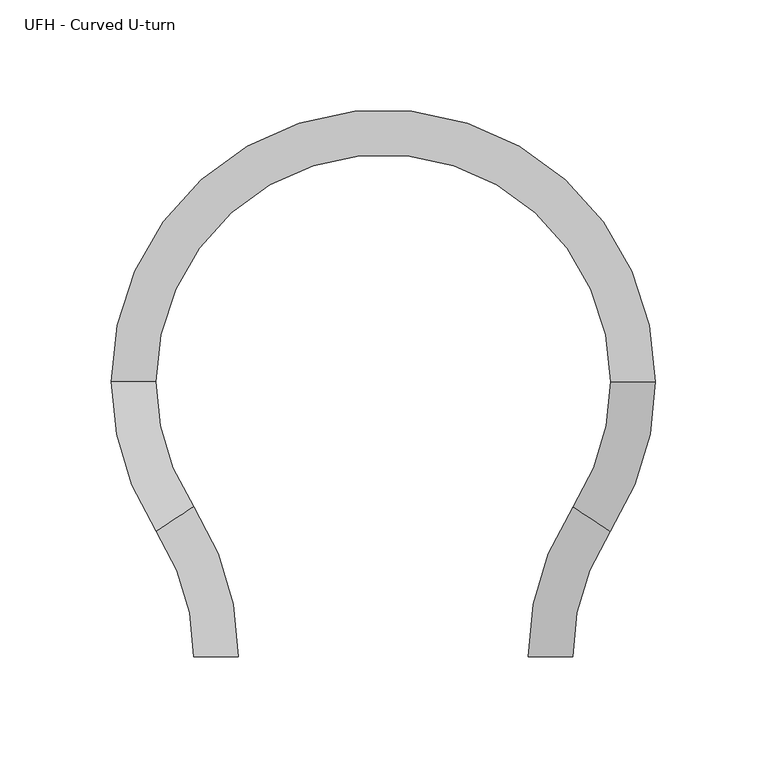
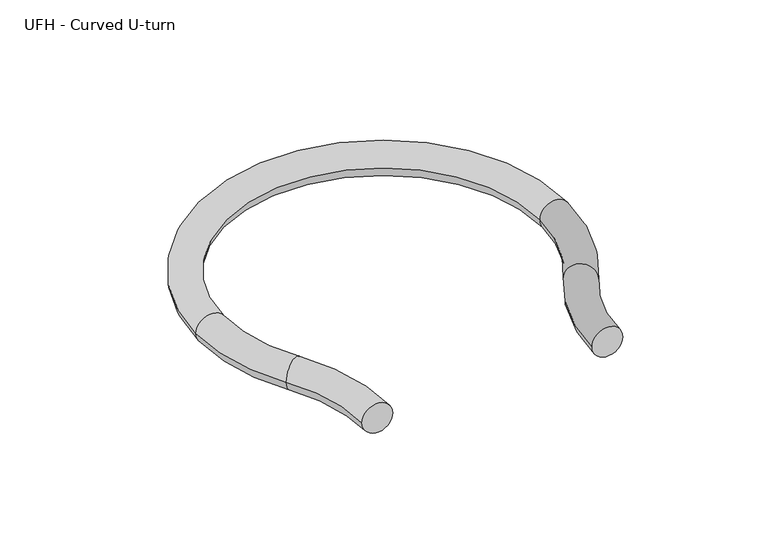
"""IFC4 building model written with IfcOpenShell, lengths in millimetres: pipe fitting geometry, UFH - Curved U-turn : Superpipe 2+ UFH Curved U-turn  - VA150."""

from ifc_helpers import new_model, si_unit, point, frame, origin, place, context, project, spatial, circle_curve, ellipse_curve, trimmed, source, transform, mapped, element, save
from ifc_brep_helpers import plane_surface, revolved_surface, advanced_brep


def ufh_curved_u_turn_2191235d(model_context):
    return source(origin(), model_context, "Body", "AdvancedBrep", [
        advanced_brep(
        [(10.0, 0.0, 0.0), (-10.0, 0.0, 0.0), (-26.8482143, 56.1531245, 0.0), (-10.1517857, 67.1635411, 0.0), (-47.0, 123.3166655, 0.0), (-27.0, 123.3166655, 0.0), (197.0, 123.3166655, 0.0), (177.0, 123.3166655, 0.0), (176.8482143, 56.1531245, 0.0), (160.1517857, 67.1635411, 0.0), (140.0, 0.0, 0.0), (160.0, 0.0, 0.0)],
        [
            (0, 1, circle_curve(frame((0.0, 0.0, 0.0), z_axis=(0.0, -1.0, 0.0), x_axis=(-1.0, 0.0, 0.0)), 10.0)),
            (1, 0, circle_curve(frame((0.0, 0.0, 0.0), z_axis=(0.0, -1.0, 0.0), x_axis=(-1.0, 0.0, 0.0)), 10.0)),
            (2, 1, circle_curve(frame((-112.0, 0.0, 0.0), z_axis=(0.0, 0.0, -1.0), x_axis=(1.0, 0.0, 0.0)), 102.0)),
            (0, 3, circle_curve(frame((-112.0, 0.0, 0.0), z_axis=(0.0, 0.0, 1.0), x_axis=(1.0, 0.0, 0.0)), 122.0)),
            (3, 2, circle_curve(frame((-18.5, 61.6583328, 0.0), z_axis=(0.5505208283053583, -0.8348214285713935, 0.0), x_axis=(-0.8348214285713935, -0.5505208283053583, 0.0)), 10.0)),
            (2, 3, circle_curve(frame((-18.5, 61.6583328, 0.0), z_axis=(0.5505208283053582, -0.8348214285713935, 0.0), x_axis=(-0.8348214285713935, -0.5505208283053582, 0.0)), 10.0)),
            (4, 2, circle_curve(frame((75.0, 123.3166655, 0.0), z_axis=(0.0, 0.0, 1.0), x_axis=(-0.8348214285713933, -0.5505208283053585, 0.0)), 122.0)),
            (3, 5, circle_curve(frame((75.0, 123.3166655, 0.0), z_axis=(0.0, 0.0, -1.0), x_axis=(-0.8348214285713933, -0.5505208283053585, 0.0)), 102.0)),
            (5, 4, circle_curve(frame((-37.0, 123.3166655, 0.0), z_axis=(0.0, -1.0, 0.0), x_axis=(-1.0, 0.0, 0.0)), 10.0)),
            (4, 5, circle_curve(frame((-37.0, 123.3166655, 0.0), z_axis=(0.0, -1.0, 0.0), x_axis=(-1.0, 0.0, 0.0)), 10.0)),
            (6, 4, circle_curve(frame((75.0, 123.3166655, 0.0), z_axis=(0.0, 0.0, 1.0), x_axis=(-1.0, 0.0, 0.0)), 122.0)),
            (5, 7, circle_curve(frame((75.0, 123.3166655, 0.0), z_axis=(0.0, 0.0, -1.0), x_axis=(-1.0, 0.0, 0.0)), 102.0)),
            (7, 6, circle_curve(frame((187.0, 123.3166655, 0.0), z_axis=(0.0, 1.0, 0.0), x_axis=(1.0, 0.0, 0.0)), 10.0)),
            (6, 7, circle_curve(frame((187.0, 123.3166655, 0.0), z_axis=(0.0, 1.0, 0.0), x_axis=(1.0, 0.0, 0.0)), 10.0)),
            (8, 6, circle_curve(frame((75.0, 123.3166655, 0.0), z_axis=(0.0, 0.0, 1.0), x_axis=(1.0, 0.0, 0.0)), 122.0)),
            (7, 9, circle_curve(frame((75.0, 123.3166655, 0.0), z_axis=(0.0, 0.0, -1.0), x_axis=(1.0, 0.0, 0.0)), 102.0)),
            (9, 8, circle_curve(frame((168.5, 61.6583328, 0.0), z_axis=(0.5505208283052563, 0.8348214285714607, 0.0), x_axis=(0.8348214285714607, -0.5505208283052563, 0.0)), 10.0)),
            (8, 9, circle_curve(frame((168.5, 61.6583328, 0.0), z_axis=(0.5505208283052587, 0.8348214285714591, 0.0), x_axis=(0.8348214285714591, -0.5505208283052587, 0.0)), 10.0)),
            (10, 11, circle_curve(frame((150.0, 0.0, 0.0), z_axis=(0.0, -1.0, 0.0), x_axis=(1.0, 0.0, 0.0)), 10.0)),
            (11, 10, circle_curve(frame((150.0, 0.0, 0.0), z_axis=(0.0, -1.0, 0.0), x_axis=(1.0, 0.0, 0.0)), 10.0)),
            (11, 8, circle_curve(frame((262.0, 0.0, 0.0), z_axis=(0.0, 0.0, -1.0), x_axis=(-0.8348214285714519, 0.5505208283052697, 0.0)), 102.0)),
            (9, 10, circle_curve(frame((262.0, 0.0, 0.0), z_axis=(0.0, 0.0, 1.0), x_axis=(-0.8348214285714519, 0.5505208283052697, 0.0)), 122.0)),
        ],
        [
            plane_surface(frame((0.0, 0.0, 0.0), z_axis=(0.0, -1.0, 0.0), x_axis=(0.0, 0.0, 1.0))),
            revolved_surface(trimmed(ellipse_curve(frame((0.0, 0.0, 0.0), z_axis=(0.0, -1.0, 0.0), x_axis=(-1.0, 0.0, 0.0)), 10.0, 10.0), [point((10.0, 0.0, 0.0))], [point((-10.0, 0.0, 0.0))], True, "CARTESIAN"), (-112.0, 0.0, 0.0), (0.0, 0.0, 1.0)),
            revolved_surface(trimmed(ellipse_curve(frame((0.0, 0.0, 0.0), z_axis=(0.0, -1.0, 0.0), x_axis=(-1.0, 0.0, 0.0)), 10.0, 10.0), [point((-10.0, 0.0, 0.0))], [point((10.0, 0.0, 0.0))], True, "CARTESIAN"), (-112.0, 0.0, 0.0), (0.0, 0.0, 1.0)),
            revolved_surface(trimmed(ellipse_curve(frame((-18.5, 61.6583328, 0.0), z_axis=(0.5505208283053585, -0.8348214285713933, 0.0), x_axis=(-0.8348214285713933, -0.5505208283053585, 0.0)), 10.0, 10.0), [point((-10.1517857, 67.1635411, 0.0))], [point((-26.8482143, 56.1531245, 0.0))], True, "CARTESIAN"), (75.0, 123.3166655, 0.0), (0.0, 0.0, -1.0)),
            revolved_surface(trimmed(ellipse_curve(frame((-18.5, 61.6583328, 0.0), z_axis=(0.5505208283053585, -0.8348214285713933, 0.0), x_axis=(-0.8348214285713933, -0.5505208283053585, 0.0)), 10.0, 10.0), [point((-26.8482143, 56.1531245, 0.0))], [point((-10.1517857, 67.1635411, 0.0))], True, "CARTESIAN"), (75.0, 123.3166655, 0.0), (0.0, 0.0, -1.0)),
            revolved_surface(trimmed(ellipse_curve(frame((-37.0, 123.3166655, 0.0), z_axis=(0.0, -1.0, 0.0), x_axis=(-1.0, 0.0, 0.0)), 10.0, 10.0), [point((-27.0, 123.3166655, 0.0))], [point((-47.0, 123.3166655, 0.0))], True, "CARTESIAN"), (75.0, 123.3166655, 0.0), (0.0, 0.0, -1.0)),
            revolved_surface(trimmed(ellipse_curve(frame((-37.0, 123.3166655, 0.0), z_axis=(0.0, -1.0, 0.0), x_axis=(-1.0, 0.0, 0.0)), 10.0, 10.0), [point((-47.0, 123.3166655, 0.0))], [point((-27.0, 123.3166655, 0.0))], True, "CARTESIAN"), (75.0, 123.3166655, 0.0), (0.0, 0.0, -1.0)),
            revolved_surface(trimmed(ellipse_curve(frame((187.0, 123.3166655, 0.0), z_axis=(0.0, 1.0, 0.0), x_axis=(1.0, 0.0, 0.0)), 10.0, 10.0), [point((177.0, 123.3166655, 0.0))], [point((197.0, 123.3166655, 0.0))], True, "CARTESIAN"), (75.0, 123.3166655, 0.0), (0.0, 0.0, -1.0)),
            revolved_surface(trimmed(ellipse_curve(frame((187.0, 123.3166655, 0.0), z_axis=(0.0, 1.0, 0.0), x_axis=(1.0, 0.0, 0.0)), 10.0, 10.0), [point((197.0, 123.3166655, 0.0))], [point((177.0, 123.3166655, 0.0))], True, "CARTESIAN"), (75.0, 123.3166655, 0.0), (0.0, 0.0, -1.0)),
            plane_surface(frame((150.0, 0.0, 0.0), z_axis=(0.0, -1.0, 0.0), x_axis=(0.0, 0.0, 1.0))),
            revolved_surface(trimmed(ellipse_curve(frame((168.5, 61.6583328, 0.0), z_axis=(0.5505208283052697, 0.8348214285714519, 0.0), x_axis=(0.8348214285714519, -0.5505208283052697, 0.0)), 10.0, 10.0), [point((160.1517857, 67.1635411, 0.0))], [point((176.8482143, 56.1531245, 0.0))], True, "CARTESIAN"), (262.0, 0.0, 0.0), (0.0, 0.0, 1.0)),
            revolved_surface(trimmed(ellipse_curve(frame((168.5, 61.6583328, 0.0), z_axis=(0.5505208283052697, 0.8348214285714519, 0.0), x_axis=(0.8348214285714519, -0.5505208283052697, 0.0)), 10.0, 10.0), [point((176.8482143, 56.1531245, 0.0))], [point((160.1517857, 67.1635411, 0.0))], True, "CARTESIAN"), (262.0, 0.0, 0.0), (0.0, 0.0, 1.0)),
        ],
        [
            (0, [[1, 2]]),
            (1, [[3, -1, 4, 5]]),
            (2, [[-4, -2, -3, 6]]),
            (3, [[7, -5, 8, 9]]),
            (4, [[-8, -6, -7, 10]]),
            (5, [[11, -9, 12, 13]]),
            (6, [[-12, -10, -11, 14]]),
            (7, [[15, -13, 16, 17]]),
            (8, [[-16, -14, -15, 18]]),
            (9, [[19, 20]]),
            (10, [[21, -17, 22, -20]]),
            (11, [[-22, -18, -21, -19]]),
        ],
    ),
    ])


if __name__ == "__main__":
    model = new_model("IFC4")
    model_context = context("Model", 3, world=origin())
    ifc_project = project(units=[si_unit("LENGTHUNIT", "METRE", prefix="MILLI")], contexts=[model_context])
    site = spatial("IfcSite", under=ifc_project)
    building = spatial("IfcBuilding", under=site)
    placement = place(None, origin())
    ufh_curved_u_turn_shape = ufh_curved_u_turn_2191235d(model_context)
    element("IfcPipeFitting", 1, ObjectType="UFH - Curved U-turn : Superpipe 2+ UFH Curved U-turn  - VA150", at=placement, inside=building, context=model_context, shape_type="MappedRepresentation", body=[
        mapped(ufh_curved_u_turn_shape, transform((0.0, 0.0, 0.0), x_axis=(1.0, 0.0, 0.0), y_axis=(0.0, 1.0, 0.0), z_axis=(0.0, 0.0, 1.0))),
    ])
    save(model, "model.ifc")
